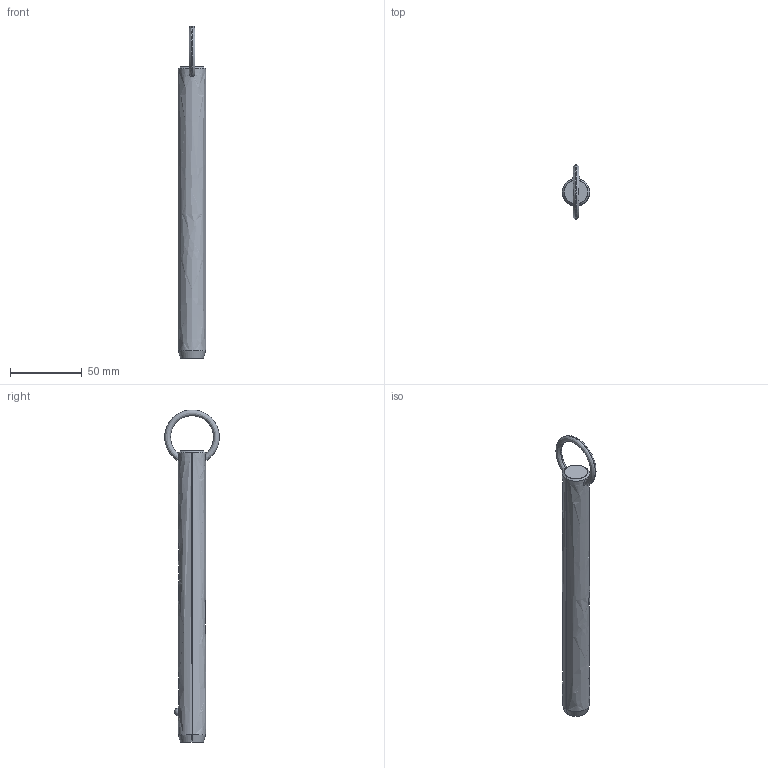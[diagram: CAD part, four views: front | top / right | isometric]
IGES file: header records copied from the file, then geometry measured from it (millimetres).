
Start section: SolidWorks IGES file using analytic representation for surfaces
Global section: file name: C:\Users\liam_\OneDrive\Documents\WORK\Work for WixRoyd\Job Files\J-00019 - Matt Davis CAD Checking\04. CAD Drawings\automotion20190605\P1250.2_v2\P1250.2_v2_20190729_IGES\P1250.075-670.igs; native system: SolidWorks 2017; preprocessor: SolidWorks 2017; author: liam_; date: 190730.000032; units: millimetre
Bounding box: 19 x 38.07 x 232 mm (x, y, z)
Surface area: 13673.8 mm2 (no closed solid volume)
Topology: 0 solids, 0 shells, 12 faces, 294 edges, 292 vertices
Faces by surface type: revolution 8, bspline 4
